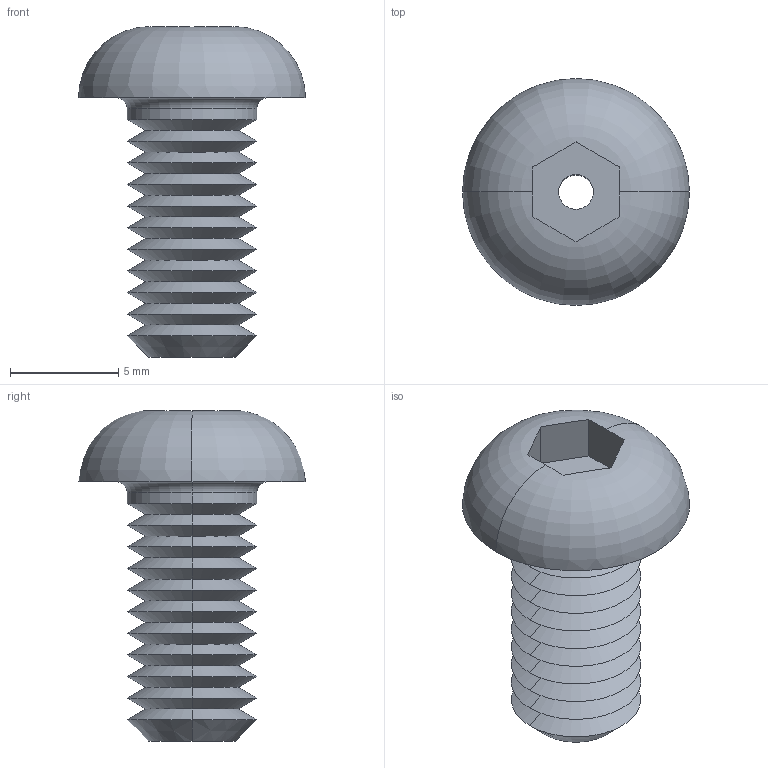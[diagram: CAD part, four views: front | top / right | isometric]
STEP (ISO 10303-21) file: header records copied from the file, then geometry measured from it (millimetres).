
FILE_DESCRIPTION (( 'STEP AP203' ), '1' );
FILE_NAME ('P0094.060-012-A2.step', '2019-07-12T16:54:57', ( '' ), ( '' ), 'SwSTEP 2.0', 'SolidWorks 2017', '' );
FILE_SCHEMA (( 'CONFIG_CONTROL_DESIGN' ));
Length unit declared in the file: millimetre
Products named in the file (1): P0094.060-012-A2
Bounding box: 10.5 x 10.5 x 15.3 mm (x, y, z)
Volume: 422.3 mm3; surface area: 665.7 mm2
Topology: 1 solids, 1 shells, 59 faces, 124 edges, 68 vertices
Faces by surface type: cone 42, plane 9, cylinder 4, torus 4
Entity records: 1645 total; most frequent: DIRECTION 294, CARTESIAN_POINT 288, ORIENTED_EDGE 248, EDGE_CURVE 124, AXIS2_PLACEMENT_3D 118, VERTEX_POINT 68, EDGE_LOOP 62, FACE_OUTER_BOUND 59
